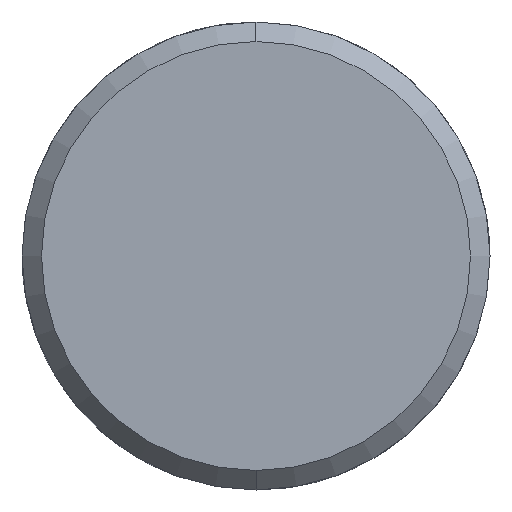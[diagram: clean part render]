
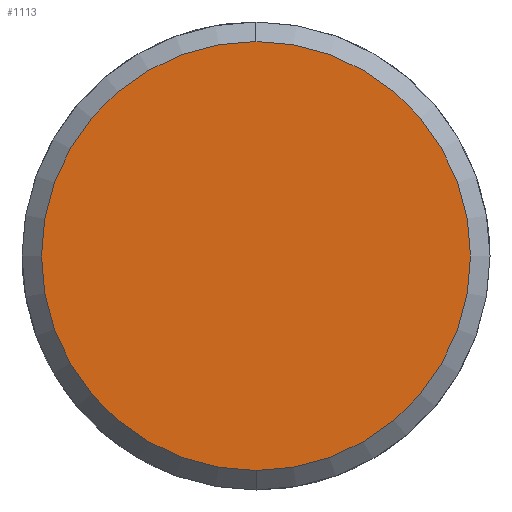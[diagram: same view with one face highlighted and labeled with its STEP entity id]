
A CAD part, left-side view. The second image highlights one B-rep face of the part: STEP entity #1113.
In plain terms, the highlighted planar face has unit normal (-1, 0, 0).
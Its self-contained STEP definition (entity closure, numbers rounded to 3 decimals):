
#1045=CARTESIAN_POINT('Vertex',(-5.,0.,-11.)) ;
#1048=CARTESIAN_POINT('Axis2P3D Location',(-5.,0.,0.)) ;
#1052=CARTESIAN_POINT('Vertex',(-5.,11.,0.)) ;
#1055=CARTESIAN_POINT('Axis2P3D Location',(-5.,0.,0.)) ;
#1059=CARTESIAN_POINT('Vertex',(-5.,0.,11.)) ;
#1081=CARTESIAN_POINT('Axis2P3D Location',(-5.,0.,0.)) ;
#1085=CARTESIAN_POINT('Vertex',(-5.,-11.,0.)) ;
#1088=CARTESIAN_POINT('Axis2P3D Location',(-5.,0.,0.)) ;
#1102=CARTESIAN_POINT('Axis2P3D Location',(-5.,0.,0.)) ;
#1049=DIRECTION('Axis2P3D Direction',(1.,0.,-0.)) ;
#1056=DIRECTION('Axis2P3D Direction',(1.,0.,-0.)) ;
#1082=DIRECTION('Axis2P3D Direction',(1.,0.,-0.)) ;
#1089=DIRECTION('Axis2P3D Direction',(1.,0.,-0.)) ;
#1103=DIRECTION('Axis2P3D Direction',(1.,0.,-0.)) ;
#1104=DIRECTION('Axis2P3D XDirection',(-0.,0.,-1.)) ;
#1050=AXIS2_PLACEMENT_3D('Circle Axis2P3D',#1048,#1049,$) ;
#1057=AXIS2_PLACEMENT_3D('Circle Axis2P3D',#1055,#1056,$) ;
#1083=AXIS2_PLACEMENT_3D('Circle Axis2P3D',#1081,#1082,$) ;
#1090=AXIS2_PLACEMENT_3D('Circle Axis2P3D',#1088,#1089,$) ;
#1105=AXIS2_PLACEMENT_3D('Plane Axis2P3D',#1102,#1103,#1104) ;
#1108=ORIENTED_EDGE('',*,*,#1054,.F.) ;
#1109=ORIENTED_EDGE('',*,*,#1092,.F.) ;
#1110=ORIENTED_EDGE('',*,*,#1087,.F.) ;
#1111=ORIENTED_EDGE('',*,*,#1061,.F.) ;
#1113=ADVANCED_FACE('351-14X36X80',(#1112),#1106,.F.) ;
#1051=CIRCLE('generated circle',#1050,11.) ;
#1058=CIRCLE('generated circle',#1057,11.) ;
#1084=CIRCLE('generated circle',#1083,11.) ;
#1091=CIRCLE('generated circle',#1090,11.) ;
#1054=EDGE_CURVE('',#1046,#1053,#1051,.T.) ;
#1061=EDGE_CURVE('',#1053,#1060,#1058,.T.) ;
#1087=EDGE_CURVE('',#1060,#1086,#1084,.T.) ;
#1092=EDGE_CURVE('',#1086,#1046,#1091,.T.) ;
#1107=EDGE_LOOP('',(#1108,#1109,#1110,#1111)) ;
#1112=FACE_OUTER_BOUND('',#1107,.T.) ;
#1106=PLANE('Plane',#1105) ;
#1046=VERTEX_POINT('',#1045) ;
#1053=VERTEX_POINT('',#1052) ;
#1060=VERTEX_POINT('',#1059) ;
#1086=VERTEX_POINT('',#1085) ;
